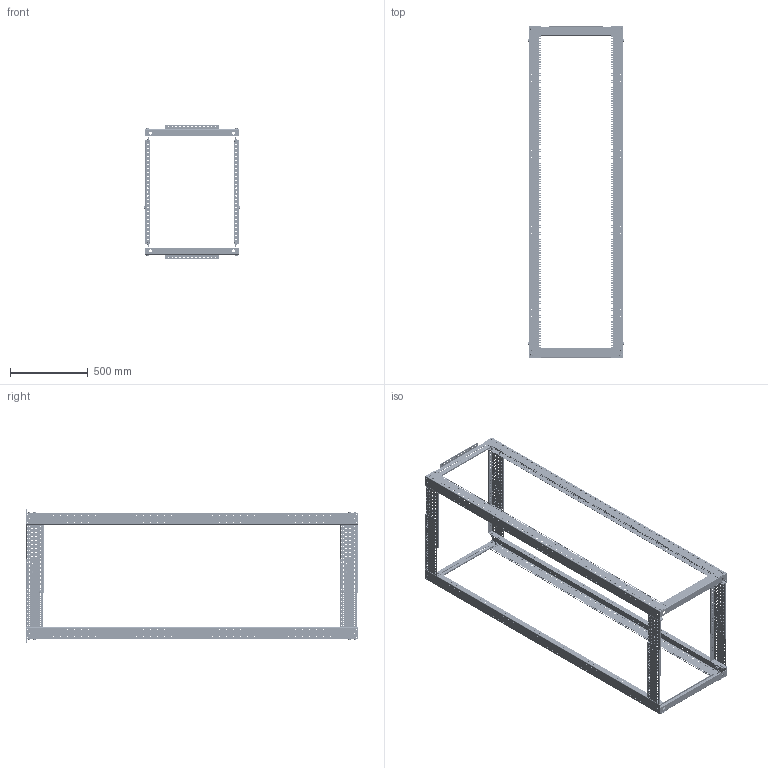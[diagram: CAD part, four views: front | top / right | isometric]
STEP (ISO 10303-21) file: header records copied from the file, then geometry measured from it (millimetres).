
FILE_DESCRIPTION(/* description */ ('4 POST VARIABLE DEPTH RACK, 45 RMU, CAGE NUT, 24-36" DEEP, 19/23 WIDE EIA TOP LEVEL ASSEMBLY'),/* implementation_level */ '2;1');
FILE_NAME(/* name */ 'C:\GL-Vault\Inventor\side GLCC projects\Website\VRX\VRX-45U2436-X-SQM6.stp',/* time_stamp */ '2020-11-02T10:11:25-05:00',/* author */ ('CAIUSD'),/* organization */ (''),/* preprocessor_version */ 'ST-DEVELOPER v17',/* originating_system */ 'Autodesk Inventor 2018',/* authorisation */ '');
FILE_SCHEMA (('AUTOMOTIVE_DESIGN { 1 0 10303 214 3 1 1 }'));
Products named in the file (21): VRX45U2436M6X200; VRX45U2436M6X100; I031572; I031573; I031570; I030722; I031567; I031567_1; FH042016; I030723; I030723_1; I031571; I030788; I030788_1; S06161; 45U; H03-099; 375-16X1HEXBOLT; 30063008-05004D; UL60950-1; H18-003GL
Assembly tree (119 placements, depth 4):
  VRX45U2436M6X200
    VRX45U2436M6X100
      I031567  x4
        I031567_1
        FH042016
        S06161
      I030722  x2
      I031570  x2
      I031572  x2
      I031571  x2
      I031573  x2
      I030723  x2
        I030723_1
        S06161
      375-16X1HEXBOLT  x32
      H03-099  x40
      I030788  x4
        I030788_1
        S06161
      45U  x4
      30063008-05004D  x4
      UL60950-1
    H18-003GL  x2
Bounding box: 617.55 x 2133.73 x 865.63 mm (x, y, z)
Volume: 5614946.2 mm3; surface area: 4931216.4 mm2
Topology: 143 solids, 143 shells, 18666 faces, 54658 edges, 36880 vertices
Faces by surface type: plane 9924, bspline 5336, cylinder 3354, cone 36, torus 16
Full cylindrical faces by diameter (mm): 4.358 x4, 4.572 x4, 4.775 x4, 4.978 x712, 5.08 x32, 5.156 x152, 5.41 x16, 6.35 x164, 6.363 x8, 7.798 x32, 7.938 x4, 8.56 x8, 9.525 x466, 9.754 x40, 9.906 x40, 11.112 x16, 12.675 x32, 12.738 x32, 14.224 x32, 17.78 x4, 19.05 x4
Entity records: 162072 total; most frequent: CARTESIAN_POINT 40381, ORIENTED_EDGE 26082, DIRECTION 21234, EDGE_CURVE 13041, VERTEX_POINT 8919, LINE 8684, VECTOR 8684, AXIS2_PLACEMENT_3D 6275
